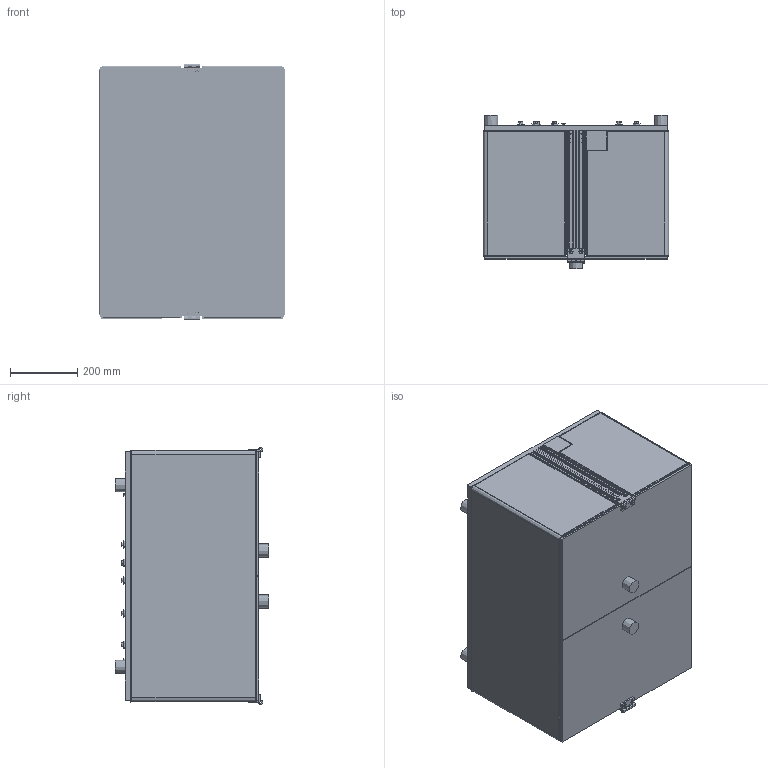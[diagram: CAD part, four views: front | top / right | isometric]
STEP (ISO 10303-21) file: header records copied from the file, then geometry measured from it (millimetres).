
FILE_DESCRIPTION(/* description */ ('© Copyright 2019 – Urheberrechtshinweis Diese CAD-Daten sind urheberrechtlich geschützt. Das Urheberrecht liegt, soweit nicht ausdrücklich anders gekennzeichnet, bei Stöger Automation GmbH. Bitte fragen Sie uns, falls Sie die CAD-Daten vervielfältigen oder','CAx-IF Rec.Pracs.---Representation and Presentation of Product Manufacturing Information (PMI)---4.0---2014-10-13'),/* implementation_level */ '2;1');
FILE_NAME(/* name */ 'H:\00_0 Arbeiten für Marketing\581413\3D_Step_file_ZSE4000 Measurement escapement.stp',/* time_stamp */ '2020-07-17T11:51:04+02:00',/* author */ ('Stöger Automation GmbH'),/* organization */ ('Stöger Automation GmbH'),/* preprocessor_version */ 'ST-DEVELOPER v17',/* originating_system */ 'Autodesk Inventor 2018',/* authorisation */ '');
FILE_SCHEMA (('AP242_MANAGED_MODEL_BASED_3D_ENGINEERING_MIM_LF { 1 0 10303 442 1 1 4 }'));
Products named in the file (1): 581413
Bounding box: 554 x 458.5 x 766.5 mm (x, y, z)
Volume: 29127953.7 mm3; surface area: 6150479.1 mm2
Topology: 12 solids, 153 shells, 8400 faces, 23228 edges, 15325 vertices
Faces by surface type: plane 4963, cylinder 2282, cone 634, torus 295, bspline 175, sphere 51
Full cylindrical faces by diameter (mm): 0.5 x1, 0.8 x6, 1 x5, 1.5 x6, 1.8 x2, 2 x8, 2.459 x9, 2.8 x1, 2.9 x2, 3 x30, 3.05 x1, 3.1 x1, 3.2 x7, 3.242 x36, 3.3 x1, 3.387 x2, 3.6 x3, 3.8 x4, 3.99 x4, 4 x56, 4.019 x6, 4.03 x5, 4.134 x22, 4.2 x2, 4.3 x20, 4.4 x2, 4.5 x11, 4.567 x1, 4.6 x1, 4.85 x1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
Entity records: 304390 total; most frequent: CARTESIAN_POINT 78611, ORIENTED_EDGE 46140, DIRECTION 45290, EDGE_CURVE 23070, AXIS2_PLACEMENT_3D 15947, VERTEX_POINT 15324, LINE 13396, VECTOR 13396
